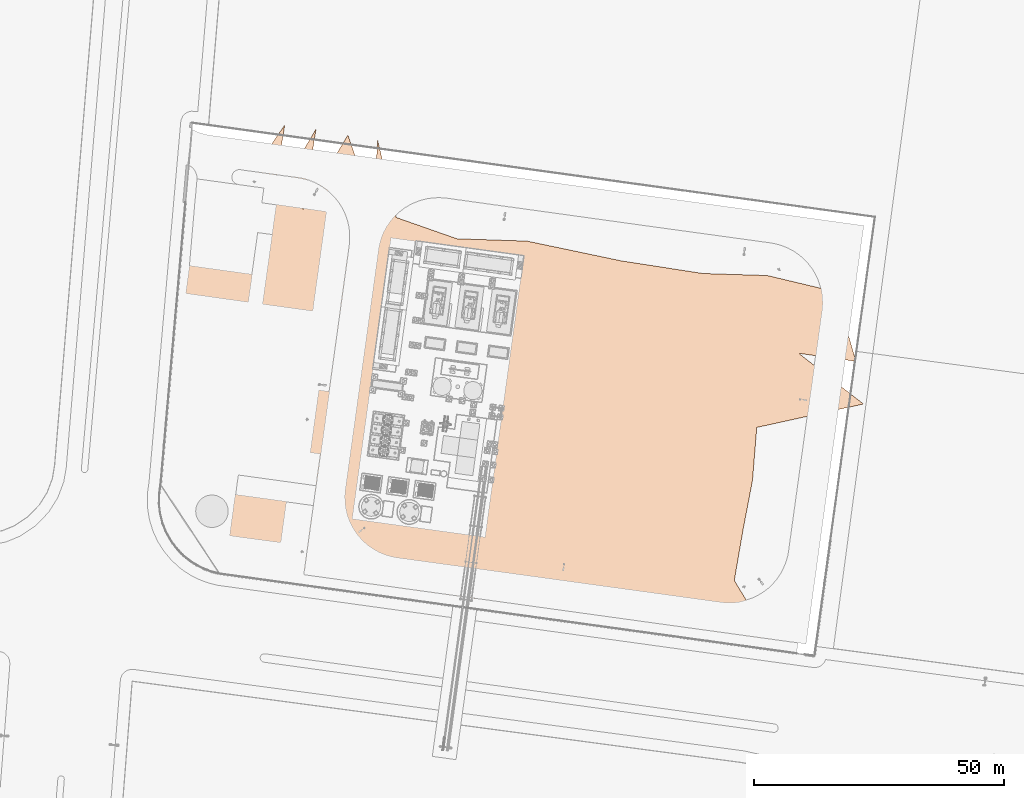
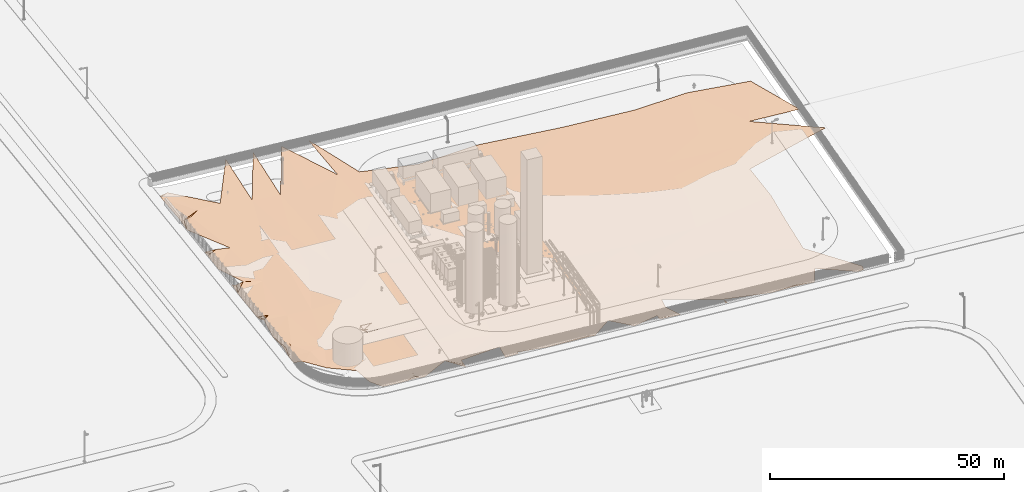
# Not in any storey, part 72 of 75: 1 geographic element.
"""IFC4 model written with IfcOpenShell, lengths in metres."""

from ifc_helpers import new_model, si_unit, direction, origin_with_axes, place, context, subcontext, project, spatial, triangles, element, save


model = new_model("IFC4")

# Units and contexts
model_context = context("Model", 3, precision=1e-05, world=origin_with_axes(), true_north=direction((0.0, 1.0)))
body_context = subcontext(model_context, "Body", "Model", "MODEL_VIEW")
ifc_project = project(units=[si_unit("AREAUNIT", "SQUARE_METRE"), si_unit("VOLUMEUNIT", "CUBIC_METRE"), si_unit("LENGTHUNIT", "METRE")], contexts=[model_context])

# Site
site_placement = place(None, origin_with_axes())
site = spatial("IfcSite", under=ifc_project, at=site_placement, Name="Parcela industrial Jinhong")

# Geographic element
geographic_element_placement = place(site_placement, origin_with_axes())
element("IfcGeographicElement", 1, at=geographic_element_placement, inside=site, Name="Terreno existente reconstruido a partir de puntos topográficos · oculto por defecto", PredefinedType="TERRAIN", context=body_context, shape_type="Tessellation", body=[
    triangles([(2.427, 104.98, 0.576), (1.36, 104.973, 0.463), (0.501, 104.674, 0.683), (-0.431, 94.608, 0.635), (0.352, 94.417, 0.498), (2.059, 94.266, 0.965), (0.579, 81.126, 0.827), (-0.912, 80.93, 0.37), (-1.533, 80.824, 0.541), (-1.919, 80.264, 0.611), (-2.803, 68.443, 0.491), (-1.89, 68.102, 0.336), (-0.419, 67.795, 0.863), (-1.901, 54.453, 0.685), (-3.279, 54.438, 0.27), (-3.943, 54.423, 0.384), (-4.924, 42.924, 0.369), (-4.349, 42.651, 0.217), (-3.089, 42.371, 0.646), (-3.804, 35.589, 0.591), (4.496, 22.163, 0.631), (14.133, 20.515, 0.546), (14.002, 19.289, 0.459), (13.89, 18.317, 0.659), (25.028, 16.657, 0.842), (25.293, 17.741, 0.623), (25.55, 19.321, 0.634), (37.205, 16.759, 0.807), (37.317, 15.749, 0.8), (37.266, 15.027, 0.895), (53.336, 12.729, 1.086), (53.41, 13.227, 0.906), (53.642, 14.196, 0.937), (69.631, 11.992, 1.273), (69.544, 11.203, 1.18), (69.551, 10.617, 1.266), (84.487, 8.533, 1.439), (84.695, 8.889, 1.358), (84.879, 9.974, 1.42), (100.431, 7.75, 1.688), (100.369, 6.754, 1.544), (100.44, 6.243, 1.661), (115.993, 4.083, 1.821), (116.262, 4.572, 1.634), (116.531, 5.418, 1.794), (37.663, 105.912, 1.398), (31.722, 106.924, 1.224), (25.341, 108.123, 1.158), (19.088, 108.972, 1.003), (129.393, 75.529, 3.074), (115.662, 78.799, 2.871), (102.832, 79.197, 2.597), (86.489, 81.721, 2.288), (67.58, 85.69, 1.846), (53.543, 86.151, 1.488), (41.382, 90.418, 1.167), (36.85, 91.9, 1.109), (35.926, 75.343, 0.832), (43.541, 74.01, 1.039), (55.37, 72.398, 1.354), (67.647, 70.687, 1.677), (82.085, 68.723, 1.95), (95.425, 66.825, 2.212), (110.561, 64.799, 2.468), (121.962, 63.227, 2.622), (133.426, 61.615, 2.766), (134.921, 53.073, 2.552), (114.405, 56.81, 2.315), (113.566, 48.382, 2.114), (112.723, 37.85, 1.851), (110.808, 27.827, 1.687), (109.072, 17.76, 1.583), (108.395, 13.396, 1.681), (107.296, 9.803, 1.729), (89.465, 14.613, 1.434), (89.917, 16.567, 1.407), (91.569, 26.771, 1.389), (93.111, 35.982, 1.566), (96.804, 45.998, 1.853), (98.247, 54.255, 2.023), (99.017, 59.543, 2.133), (79.591, 61.462, 1.79), (78.553, 56.219, 1.687), (78.024, 46.23, 1.496), (77.652, 37.519, 1.312), (77.294, 30.807, 1.26), (75.628, 24.305, 1.198), (74.172, 19.514, 1.223), (73.466, 16.741, 1.289), (72.771, 13.911, 1.275), (59.812, 15.985, 1.006), (61.08, 25.066, 0.933), (62.171, 33.002, 1.096), (62.942, 40.89, 1.107), (64.293, 52.002, 1.358), (63.505, 62.119, 1.488), (44.593, 66.831, 1.125), (43.486, 59.456, 0.995), (41.593, 50.51, 0.928), (38.548, 39.171, 0.713), (37.551, 29.632, 0.553), (36.042, 24.492, 0.47), (35.006, 19.521, 0.65), (22.429, 21.001, 0.545), (23.165, 28.299, 0.526), (24.231, 34.906, 0.389), (25.74, 48.898, 0.558), (28.841, 59.292, 0.777), (29.431, 68.28, 0.854), (28.745, 80.314, 0.869), (28.405, 90.513, 0.944), (22.736, 91.95, 0.795), (16.514, 93.236, 0.786), (9.873, 95.421, 0.943), (4.371, 95.508, 1.001), (3.508, 80.325, 0.745), (11.263, 79.035, 0.654), (17.37, 77.965, 0.753), (22.168, 77.415, 0.725), (19.682, 64.364, 0.63), (14.216, 65.2, 0.508), (10.155, 65.744, 0.679), (3.475, 66.202, 0.611), (1.693, 52.466, 0.702), (7.049, 51.518, 0.769), (17.439, 51.132, 0.729), (24.204, 49.962, 0.639), (17.078, 37.855, 0.411), (16.071, 38.354, 0.504), (13.419, 38.478, 0.53), (12.594, 40.377, 0.55), (13.345, 41.372, 0.542), (15.9, 41.158, 0.461), (16.832, 39.574, 0.448), (13.674, 40.383, 0.063), (13.511, 40.24, 0.007), (12.833, 35.85, 0.526), (8.078, 36.785, 0.624), (2.787, 38.544, 0.498), (-0.855, 38.156, 0.726), (-0.94, 31.119, 0.765), (4.097, 27.045, 0.731), (10.837, 25.667, 0.665), (15.994, 25.283, 0.532), (14.457, 21.711, 0.57), (7.49, 22.76, 0.647), (-4.163, 55.415, 0.44), (-3.316, 65.067, 0.482), (-2.422, 74.867, 0.532), (-1.914, 80.288, 0.587), (-1.819, 81.831, 0.591), (-1.032, 90.735, 0.648), (0.12, 103.929, 0.704), (-4.868, 47.481, 0.4), (-5.619, 39.208, 0.369), (-5.784, 36.933, 0.375), (6.022, 19.108, 0.71), (7.268, 18.928, 0.707), (8.748, 18.697, 0.708), (10.973, 18.389, 0.751), (15.541, 17.746, 0.74), (24.852, 16.459, 0.894), (33.963, 15.209, 0.947), (43.23, 13.94, 1.035), (54.505, 12.373, 1.153), (63.526, 11.137, 1.257), (74.178, 9.665, 1.372), (84.958, 8.172, 1.509), (94.876, 6.824, 1.598), (104.715, 5.466, 1.724), (114.594, 4.114, 1.822), (-3.407, 53.682, 0.427), (-3.408, 53.682, 0.427)], [[65, 50, 51], [65, 66, 50], [65, 68, 67], [52, 64, 51], [64, 65, 51], [65, 64, 68], [64, 52, 63], [52, 53, 63], [114, 117, 113], [111, 110, 57], [53, 62, 63], [62, 82, 63], [68, 69, 67], [117, 122, 121], [123, 122, 117], [118, 117, 121], [117, 118, 113], [111, 112, 110], [112, 119, 110], [118, 112, 113], [112, 118, 119], [120, 118, 121], [118, 120, 119], [49, 114, 113], [62, 61, 82], [61, 96, 82], [61, 53, 54], [61, 62, 53], [116, 123, 117], [114, 116, 117], [1, 115, 114], [40, 170, 74], [70, 78, 71], [77, 72, 71], [78, 77, 71], [96, 83, 82], [95, 83, 96], [80, 69, 68], [83, 80, 82], [100, 93, 94], [93, 85, 94], [98, 95, 96], [47, 111, 57], [47, 112, 111], [116, 149, 123], [149, 116, 7], [4, 152, 5], [6, 116, 114], [115, 6, 114], [6, 152, 116], [6, 115, 5], [152, 6, 5], [153, 4, 5], [115, 153, 5], [153, 1, 2], [1, 153, 115], [13, 148, 123], [149, 13, 123], [100, 107, 106], [125, 122, 123], [122, 125, 121], [73, 40, 74], [40, 73, 72], [76, 40, 72], [77, 76, 72], [76, 87, 88], [87, 76, 77], [84, 85, 78], [84, 83, 95], [84, 95, 94], [85, 84, 94], [70, 79, 78], [79, 84, 78], [79, 70, 69], [80, 79, 69], [79, 80, 83], [84, 79, 83], [64, 81, 68], [81, 80, 68], [81, 64, 63], [82, 81, 63], [80, 81, 82], [119, 109, 110], [120, 109, 119], [61, 60, 96], [55, 60, 54], [60, 61, 54], [10, 149, 7], [3, 153, 2], [148, 12, 11], [13, 12, 148], [112, 48, 113], [143, 146, 145], [138, 143, 137], [144, 143, 145], [104, 144, 145], [105, 144, 104], [143, 144, 137], [128, 105, 106], [144, 128, 137], [128, 144, 105], [99, 107, 100], [99, 100, 94], [95, 99, 94], [98, 99, 95], [126, 120, 121], [125, 126, 121], [40, 41, 170], [41, 42, 170], [169, 41, 40], [41, 169, 42], [93, 86, 85], [87, 86, 93], [86, 87, 77], [86, 77, 78], [85, 86, 78], [161, 104, 145], [27, 105, 104], [109, 108, 98], [108, 99, 98], [99, 108, 107], [108, 109, 120], [126, 108, 120], [56, 59, 55], [59, 60, 55], [73, 45, 72], [45, 73, 74], [56, 46, 57], [151, 8, 7], [8, 10, 7], [146, 22, 145], [22, 146, 160], [22, 161, 145], [138, 142, 143], [142, 146, 143], [146, 142, 21], [19, 154, 18], [148, 14, 123], [108, 127, 107], [127, 108, 126], [132, 126, 125], [76, 75, 40], [75, 169, 40], [27, 102, 105], [109, 58, 110], [58, 59, 56], [110, 58, 57], [58, 56, 57], [146, 159, 160], [158, 159, 146], [157, 158, 146], [157, 146, 21], [171, 45, 74], [9, 8, 151], [155, 19, 18], [20, 155, 156], [19, 124, 154], [125, 124, 139], [124, 19, 139], [124, 125, 123], [14, 124, 123], [141, 138, 139], [141, 142, 138], [154, 17, 18], [17, 155, 18], [147, 14, 148], [132, 133, 126], [133, 127, 126], [127, 133, 107], [130, 138, 137], [75, 39, 169], [89, 39, 88], [39, 76, 88], [39, 75, 76], [89, 34, 90], [91, 34, 89], [92, 89, 88], [92, 91, 89], [87, 92, 88], [92, 87, 93], [103, 102, 27], [105, 101, 106], [102, 101, 105], [101, 100, 106], [101, 93, 100], [101, 92, 93], [23, 22, 160], [24, 23, 160], [22, 23, 161], [23, 24, 161], [26, 27, 104], [58, 97, 59], [59, 97, 60], [97, 109, 98], [97, 58, 109], [97, 98, 96], [60, 97, 96], [8, 150, 10], [9, 150, 8], [10, 150, 151], [150, 9, 151], [140, 141, 139], [141, 140, 20], [19, 140, 139], [155, 140, 19], [140, 155, 20], [124, 172, 154], [172, 124, 14], [107, 134, 106], [133, 134, 107], [134, 128, 106], [128, 129, 137], [129, 130, 137], [134, 129, 128], [129, 134, 133], [130, 131, 138], [138, 131, 139], [131, 125, 139], [131, 132, 125], [135, 133, 132], [135, 129, 133], [129, 135, 130], [34, 167, 90], [92, 33, 91], [101, 33, 92], [162, 26, 104], [26, 162, 25], [171, 44, 45], [43, 44, 171], [172, 173, 154], [147, 15, 14], [15, 172, 14], [15, 173, 172], [136, 131, 130], [135, 136, 130], [131, 136, 132], [136, 135, 132], [39, 38, 168], [38, 37, 168], [37, 38, 39], [164, 101, 102], [164, 33, 101], [33, 164, 32], [166, 34, 91], [16, 15, 147], [15, 16, 173], [35, 167, 34], [35, 36, 167], [33, 165, 91], [165, 33, 32], [28, 164, 102], [28, 29, 164], [103, 28, 102], [163, 28, 103], [29, 28, 163], [31, 165, 32], [164, 31, 32], [30, 29, 163]], closed=False),
])

save(model, "model.ifc")
